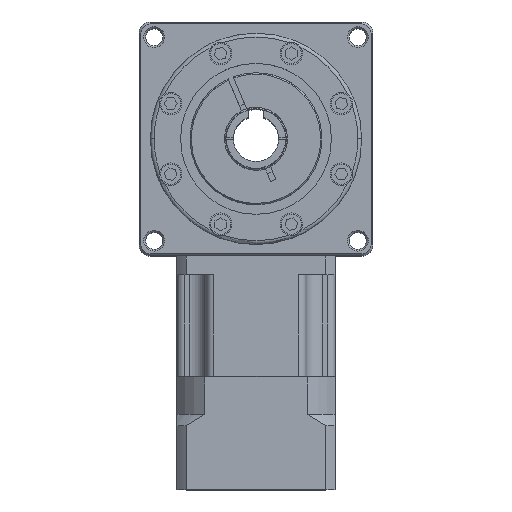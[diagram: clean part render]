
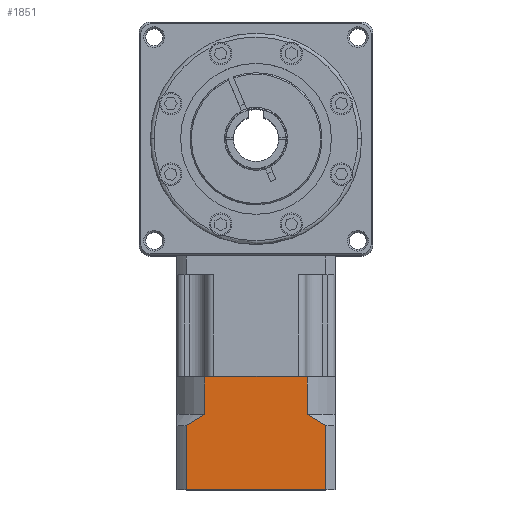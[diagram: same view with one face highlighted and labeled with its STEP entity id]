
A CAD part, top view. The second image highlights one B-rep face of the part: STEP entity #1851.
In plain terms, the highlighted planar face has unit normal (0, 0, 1) as drawn and (0, -1, 0) by its records, which use the part's own axes.
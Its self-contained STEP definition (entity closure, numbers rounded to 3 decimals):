
#317 = VERTEX_POINT ( 'NONE', #8955 ) ;
#342 = CARTESIAN_POINT ( 'NONE',  ( 0., -21., -57. ) ) ;
#432 = DIRECTION ( 'NONE',  ( -1., 0., 0. ) ) ;
#537 = DIRECTION ( 'NONE',  ( 0., 0., 1. ) ) ;
#551 = DIRECTION ( 'NONE',  ( -1., 0., 0. ) ) ;
#609 = EDGE_CURVE ( 'NONE', #317, #5101, #11007, .T. ) ;
#1100 = EDGE_LOOP ( 'NONE', ( #6872, #4124, #2259, #4300, #9247, #9340, #4659, #7552 ) ) ;
#1142 = DIRECTION ( 'NONE',  ( 0., 0., 1. ) ) ;
#1363 = VECTOR ( 'NONE', #1142, 1000. ) ;
#1566 = LINE ( 'NONE', #5936, #2807 ) ;
#1851 = ADVANCED_FACE ( 'NONE', ( #3757 ), #8152, .F. ) ;
#1948 = CARTESIAN_POINT ( 'NONE',  ( 18.52, -21., -40. ) ) ;
#2259 = ORIENTED_EDGE ( 'NONE', *, *, #12129, .F. ) ;
#2448 = CARTESIAN_POINT ( 'NONE',  ( -18.52, -21., -40. ) ) ;
#2807 = VECTOR ( 'NONE', #10337, 1000. ) ;
#3058 = CARTESIAN_POINT ( 'NONE',  ( -18.52, -21., -57. ) ) ;
#3268 = LINE ( 'NONE', #3058, #13044 ) ;
#3757 = FACE_OUTER_BOUND ( 'NONE', #1100, .T. ) ;
#4124 = ORIENTED_EDGE ( 'NONE', *, *, #5634, .F. ) ;
#4142 = LINE ( 'NONE', #10861, #5564 ) ;
#4300 = ORIENTED_EDGE ( 'NONE', *, *, #12134, .T. ) ;
#4476 = EDGE_CURVE ( 'NONE', #317, #13028, #6171, .T. ) ;
#4557 = CARTESIAN_POINT ( 'NONE',  ( 15.259, -21., -37.92 ) ) ;
#4659 = ORIENTED_EDGE ( 'NONE', *, *, #9240, .T. ) ;
#4972 = CARTESIAN_POINT ( 'NONE',  ( -18.52, -21., -57. ) ) ;
#5101 = VERTEX_POINT ( 'NONE', #9767 ) ;
#5289 = CARTESIAN_POINT ( 'NONE',  ( 18.52, -21., -57. ) ) ;
#5564 = VECTOR ( 'NONE', #9616, 1000. ) ;
#5634 = EDGE_CURVE ( 'NONE', #11467, #8442, #3268, .T. ) ;
#5753 = CARTESIAN_POINT ( 'NONE',  ( 0., -21., -27.1 ) ) ;
#5936 = CARTESIAN_POINT ( 'NONE',  ( 18.52, -21., -57. ) ) ;
#6171 = B_SPLINE_CURVE_WITH_KNOTS ( 'NONE', 3,
 ( #13420, #4557, #12485, #12211 ),
 .UNSPECIFIED., .F., .F.,
 ( 4, 4 ),
 ( 0.034, 0.04 ),
 .UNSPECIFIED. ) ;
#6358 = DIRECTION ( 'NONE',  ( 0., 0., 1. ) ) ;
#6797 = B_SPLINE_CURVE_WITH_KNOTS ( 'NONE', 3,
 ( #2448, #8117, #12598, #6969 ),
 .UNSPECIFIED., .F., .F.,
 ( 4, 4 ),
 ( 0., 0.006 ),
 .UNSPECIFIED. ) ;
#6872 = ORIENTED_EDGE ( 'NONE', *, *, #9202, .F. ) ;
#6969 = CARTESIAN_POINT ( 'NONE',  ( -13.565, -21., -37. ) ) ;
#7551 = VERTEX_POINT ( 'NONE', #14192 ) ;
#7552 = ORIENTED_EDGE ( 'NONE', *, *, #11748, .F. ) ;
#8117 = CARTESIAN_POINT ( 'NONE',  ( -16.903, -21., -38.931 ) ) ;
#8152 = PLANE ( 'NONE',  #11171 ) ;
#8442 = VERTEX_POINT ( 'NONE', #10390 ) ;
#8502 = VERTEX_POINT ( 'NONE', #13371 ) ;
#8747 = CARTESIAN_POINT ( 'NONE',  ( 13.565, -21., -37. ) ) ;
#8955 = CARTESIAN_POINT ( 'NONE',  ( 13.565, -21., -37. ) ) ;
#8983 = LINE ( 'NONE', #5753, #12098 ) ;
#9202 = EDGE_CURVE ( 'NONE', #8442, #8502, #6797, .T. ) ;
#9240 = EDGE_CURVE ( 'NONE', #5101, #7551, #8983, .T. ) ;
#9247 = ORIENTED_EDGE ( 'NONE', *, *, #4476, .F. ) ;
#9301 = CARTESIAN_POINT ( 'NONE',  ( 0., -21., -37. ) ) ;
#9340 = ORIENTED_EDGE ( 'NONE', *, *, #609, .T. ) ;
#9467 = VECTOR ( 'NONE', #551, 1000. ) ;
#9616 = DIRECTION ( 'NONE',  ( 0., 0., 1. ) ) ;
#9767 = CARTESIAN_POINT ( 'NONE',  ( 13.565, -21., -27.1 ) ) ;
#10199 = LINE ( 'NONE', #342, #9467 ) ;
#10337 = DIRECTION ( 'NONE',  ( 0., 0., 1. ) ) ;
#10390 = CARTESIAN_POINT ( 'NONE',  ( -18.52, -21., -40. ) ) ;
#10397 = DIRECTION ( 'NONE',  ( 0., 1., 0. ) ) ;
#10861 = CARTESIAN_POINT ( 'NONE',  ( -13.565, -21., -37. ) ) ;
#11007 = LINE ( 'NONE', #8747, #1363 ) ;
#11171 = AXIS2_PLACEMENT_3D ( 'NONE', #9301, #10397, #537 ) ;
#11467 = VERTEX_POINT ( 'NONE', #4972 ) ;
#11748 = EDGE_CURVE ( 'NONE', #8502, #7551, #4142, .T. ) ;
#12098 = VECTOR ( 'NONE', #432, 1000. ) ;
#12129 = EDGE_CURVE ( 'NONE', #12237, #11467, #10199, .T. ) ;
#12134 = EDGE_CURVE ( 'NONE', #12237, #13028, #1566, .T. ) ;
#12211 = CARTESIAN_POINT ( 'NONE',  ( 18.52, -21., -40. ) ) ;
#12237 = VERTEX_POINT ( 'NONE', #5289 ) ;
#12485 = CARTESIAN_POINT ( 'NONE',  ( 16.905, -21., -38.932 ) ) ;
#12598 = CARTESIAN_POINT ( 'NONE',  ( -15.258, -21., -37.919 ) ) ;
#13028 = VERTEX_POINT ( 'NONE', #1948 ) ;
#13044 = VECTOR ( 'NONE', #6358, 1000. ) ;
#13371 = CARTESIAN_POINT ( 'NONE',  ( -13.565, -21., -37. ) ) ;
#13420 = CARTESIAN_POINT ( 'NONE',  ( 13.565, -21., -37. ) ) ;
#14192 = CARTESIAN_POINT ( 'NONE',  ( -13.565, -21., -27.1 ) ) ;
